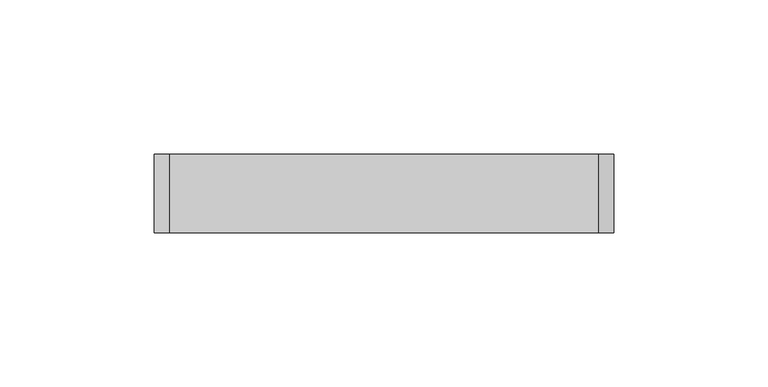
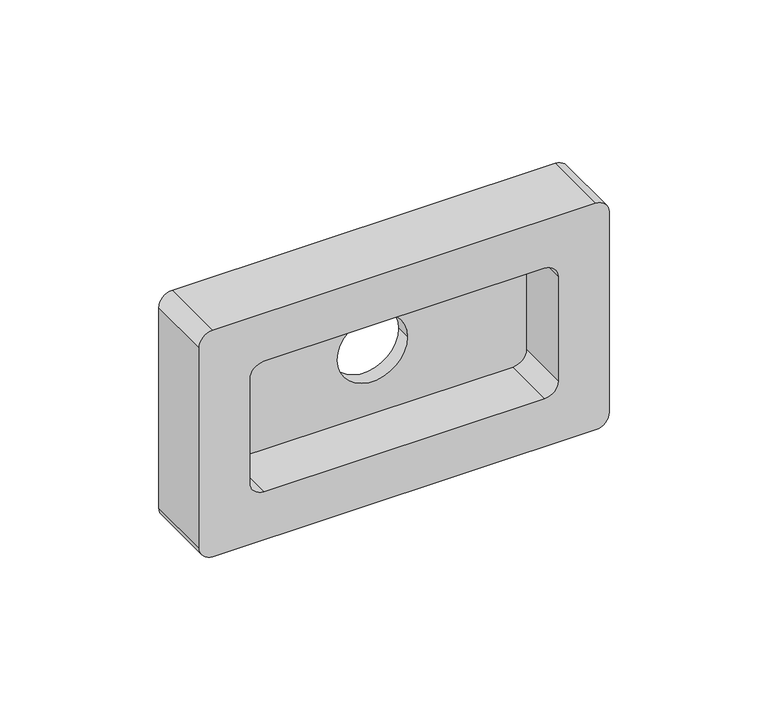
"""IFC4 building model written with IfcOpenShell, lengths in millimetres: proxy geometry, КНС_КоробкаМонтажнаяПод4МодуляЭлектроустановочныхИзделийPDD-N120_ILF_DKC : Белая."""

from ifc_helpers import new_model, si_unit, frame, origin, place, context, project, spatial, polyline, circle_curve, source, transform, mapped, element, save
from ifc_brep_helpers import plane_surface, cylinder_surface, revolved_surface, advanced_brep


def electrical_fixtures_2044470d(model_context):
    return source(origin(), model_context, "Body", "AdvancedBrep", [
        advanced_brep(
        [(69.5, 0.0, 43.5), (-69.5, 0.0, 43.5), (-74.5, 0.0, 38.5), (-74.5, 0.0, -38.5), (-69.5, 0.0, -43.5), (69.5, 0.0, -43.5), (74.5, 0.0, -38.5), (74.5, 0.0, 38.5), (-51.0, 0.0, 25.0), (51.0, 0.0, 25.0), (56.0, 0.0, 20.0), (56.0, 0.0, -20.0), (51.0, 0.0, -25.0), (-51.0, 0.0, -25.0), (-56.0, 0.0, -20.0), (-56.0, 0.0, 20.0), (69.5, 25.4, 43.5), (74.5, 25.4, 38.5), (74.5, 25.4, -38.5), (69.5, 25.4, -43.5), (-69.5, 25.4, -43.5), (-74.5, 25.4, -38.5), (-74.5, 25.4, 38.5), (-69.5, 25.4, 43.5), (-12.7, 25.4, 0.0), (12.7, 25.4, 0.0), (51.0, 20.0, 25.0), (-51.0, 20.0, 25.0), (-56.0, 20.0, 20.0), (-56.0, 20.0, -20.0), (-51.0, 20.0, -25.0), (51.0, 20.0, -25.0), (56.0, 20.0, -20.0), (56.0, 20.0, 20.0), (12.7, 20.0, 0.0), (-12.7, 20.0, 0.0)],
        [
            (0, 1),
            (1, 2, circle_curve(frame((-69.5, 0.0, 38.5), z_axis=(0.0, -1.0, 0.0), x_axis=(1.0, 0.0, 0.0)), 5.0)),
            (2, 3),
            (3, 4, circle_curve(frame((-69.5, 0.0, -38.5), z_axis=(0.0, -1.0, 0.0), x_axis=(1.0, 0.0, 0.0)), 5.0)),
            (4, 5),
            (5, 6, circle_curve(frame((69.5, 0.0, -38.5), z_axis=(0.0, -1.0, 0.0), x_axis=(1.0, 0.0, 0.0)), 5.0)),
            (6, 7),
            (7, 0, circle_curve(frame((69.5, 0.0, 38.5), z_axis=(0.0, -1.0, 0.0), x_axis=(1.0, 0.0, 0.0)), 5.0)),
            (8, 9),
            (9, 10, circle_curve(frame((51.0, 0.0, 20.0), z_axis=(0.0, 1.0, 0.0), x_axis=(1.0, 0.0, 0.0)), 5.0)),
            (10, 11),
            (11, 12, circle_curve(frame((51.0, 0.0, -20.0), z_axis=(0.0, 1.0, 0.0), x_axis=(1.0, 0.0, 0.0)), 5.0)),
            (12, 13),
            (13, 14, circle_curve(frame((-51.0, 0.0, -20.0), z_axis=(0.0, 1.0, 0.0), x_axis=(1.0, 0.0, 0.0)), 5.0)),
            (14, 15),
            (15, 8, circle_curve(frame((-51.0, 0.0, 20.0), z_axis=(0.0, 1.0, 0.0), x_axis=(1.0, 0.0, 0.0)), 5.0)),
            (16, 17, circle_curve(frame((69.5, 25.4, 38.5), z_axis=(0.0, 1.0, 0.0), x_axis=(1.0, 0.0, 0.0)), 5.0)),
            (17, 18),
            (18, 19, circle_curve(frame((69.5, 25.4, -38.5), z_axis=(0.0, 1.0, 0.0), x_axis=(1.0, 0.0, 0.0)), 5.0)),
            (19, 20),
            (20, 21, circle_curve(frame((-69.5, 25.4, -38.5), z_axis=(0.0, 1.0, 0.0), x_axis=(1.0, 0.0, 0.0)), 5.0)),
            (21, 22),
            (22, 23, circle_curve(frame((-69.5, 25.4, 38.5), z_axis=(0.0, 1.0, 0.0), x_axis=(1.0, 0.0, 0.0)), 5.0)),
            (23, 16),
            (24, 25, circle_curve(frame((0.0, 25.4, 0.0), z_axis=(0.0, -1.0, 0.0), x_axis=(1.0, 0.0, 0.0)), 12.7)),
            (25, 24, circle_curve(frame((0.0, 25.4, 0.0), z_axis=(0.0, -1.0, 0.0), x_axis=(1.0, 0.0, 0.0)), 12.7)),
            (0, 16),
            (23, 1),
            (22, 2),
            (21, 3),
            (20, 4),
            (19, 5),
            (18, 6),
            (17, 7),
            (26, 27),
            (27, 28, circle_curve(frame((-51.0, 20.0, 20.0), z_axis=(0.0, -1.0, 0.0), x_axis=(1.0, 0.0, 0.0)), 5.0)),
            (28, 29),
            (29, 30, circle_curve(frame((-51.0, 20.0, -20.0), z_axis=(0.0, -1.0, 0.0), x_axis=(1.0, 0.0, 0.0)), 5.0)),
            (30, 31),
            (31, 32, circle_curve(frame((51.0, 20.0, -20.0), z_axis=(0.0, -1.0, 0.0), x_axis=(1.0, 0.0, 0.0)), 5.0)),
            (32, 33),
            (33, 26, circle_curve(frame((51.0, 20.0, 20.0), z_axis=(0.0, -1.0, 0.0), x_axis=(1.0, 0.0, 0.0)), 5.0)),
            (34, 35, circle_curve(frame((0.0, 20.0, 0.0), z_axis=(0.0, 1.0, 0.0), x_axis=(1.0, 0.0, 0.0)), 12.7)),
            (35, 34, circle_curve(frame((0.0, 20.0, 0.0), z_axis=(0.0, 1.0, 0.0), x_axis=(1.0, 0.0, 0.0)), 12.7)),
            (26, 9),
            (8, 27),
            (15, 28),
            (14, 29),
            (13, 30),
            (12, 31),
            (11, 32),
            (10, 33),
            (34, 25),
            (24, 35),
        ],
        [
            plane_surface(frame((-69.5, 0.0, 43.5), z_axis=(0.0, -1.0, 0.0), x_axis=(-1.0, 0.0, 0.0))),
            plane_surface(frame((-69.5, 25.4, 43.5), z_axis=(0.0, 1.0, 0.0), x_axis=(1.0, 0.0, 0.0))),
            plane_surface(frame((69.5, 0.0, 43.5), z_axis=(0.0, 0.0, 1.0), x_axis=(0.0, 1.0, 0.0))),
            cylinder_surface(frame((-69.5, 25.4, 38.5), z_axis=(0.0, -1.0, 0.0), x_axis=(1.0, 0.0, 0.0)), 5.0),
            plane_surface(frame((-74.5, 0.0, 38.5), z_axis=(-1.0, 0.0, 0.0), x_axis=(0.0, 1.0, 0.0))),
            cylinder_surface(frame((-69.5, 25.4, -38.5), z_axis=(0.0, -1.0, 0.0), x_axis=(1.0, 0.0, 0.0)), 5.0),
            plane_surface(frame((-69.5, 0.0, -43.5), z_axis=(0.0, 0.0, -1.0), x_axis=(0.0, 1.0, 0.0))),
            cylinder_surface(frame((69.5, 25.4, -38.5), z_axis=(0.0, -1.0, 0.0), x_axis=(1.0, 0.0, 0.0)), 5.0),
            plane_surface(frame((74.5, 0.0, -38.5), z_axis=(1.0, 0.0, 0.0), x_axis=(0.0, 1.0, 0.0))),
            cylinder_surface(frame((69.5, 25.4, 38.5), z_axis=(0.0, -1.0, 0.0), x_axis=(1.0, 0.0, 0.0)), 5.0),
            plane_surface(frame((-51.0, 20.0, 25.0), z_axis=(0.0, -1.0, 0.0), x_axis=(1.0, 0.0, 0.0))),
            plane_surface(frame((51.0, 0.0, 25.0), z_axis=(0.0, 0.0, -1.0), x_axis=(0.0, 1.0, 0.0))),
            revolved_surface(polyline([(-46.0, 0.0, 20.0), (-46.0, 20.0, 20.0)]), (-51.0, 20.0, 20.0), (0.0, -1.0, 0.0)),
            plane_surface(frame((-56.0, 0.0, 20.0), z_axis=(1.0, 0.0, 0.0), x_axis=(0.0, 1.0, 0.0))),
            revolved_surface(polyline([(-46.0, 0.0, -20.0), (-46.0, 20.0, -20.0)]), (-51.0, 20.0, -20.0), (0.0, -1.0, 0.0)),
            plane_surface(frame((-51.0, 0.0, -25.0), z_axis=(0.0, 0.0, 1.0), x_axis=(0.0, 1.0, 0.0))),
            revolved_surface(polyline([(56.0, 0.0, -20.0), (56.0, 20.0, -20.0)]), (51.0, 20.0, -20.0), (0.0, -1.0, 0.0)),
            plane_surface(frame((56.0, 0.0, -20.0), z_axis=(-1.0, 0.0, 0.0), x_axis=(0.0, 1.0, 0.0))),
            revolved_surface(polyline([(56.0, 0.0, 20.0), (56.0, 20.0, 20.0)]), (51.0, 20.0, 20.0), (0.0, -1.0, 0.0)),
            revolved_surface(polyline([(12.7, 20.0, 0.0), (12.7, 25.4, 0.0)]), (0.0, 25.4, 0.0), (0.0, -1.0, 0.0)),
        ],
        [
            (0, [[1, 2, 3, 4, 5, 6, 7, 8], [9, 10, 11, 12, 13, 14, 15, 16]]),
            (1, [[17, 18, 19, 20, 21, 22, 23, 24], [25, 26]]),
            (2, [[-1, 27, -24, 28]]),
            (3, [[-2, -28, -23, 29]]),
            (4, [[-3, -29, -22, 30]]),
            (5, [[-4, -30, -21, 31]]),
            (6, [[-5, -31, -20, 32]]),
            (7, [[-6, -32, -19, 33]]),
            (8, [[-7, -33, -18, 34]]),
            (9, [[-8, -34, -17, -27]]),
            (10, [[35, 36, 37, 38, 39, 40, 41, 42], [43, 44]]),
            (11, [[-35, 45, -9, 46]]),
            (12, [[-36, -46, -16, 47]]),
            (13, [[-37, -47, -15, 48]]),
            (14, [[-38, -48, -14, 49]]),
            (15, [[-39, -49, -13, 50]]),
            (16, [[-40, -50, -12, 51]]),
            (17, [[-41, -51, -11, 52]]),
            (18, [[-42, -52, -10, -45]]),
            (19, [[53, -25, 54, -43]]),
            (19, [[-53, -44, -54, -26]]),
        ],
    ),
    ])


if __name__ == "__main__":
    model = new_model("IFC4")
    model_context = context("Model", 3, world=origin())
    ifc_project = project(units=[si_unit("LENGTHUNIT", "METRE", prefix="MILLI")], contexts=[model_context])
    site = spatial("IfcSite", under=ifc_project)
    building = spatial("IfcBuilding", under=site)
    placement = place(None, origin())
    electrical_fixtures_shape = electrical_fixtures_2044470d(model_context)
    element("IfcBuildingElementProxy", 1, Name="КНС_КоробкаМонтажнаяПод4МодуляЭлектроустановочныхИзделийPDD-N120_ILF_DKC : Белая", ObjectType="КНС_КоробкаМонтажнаяПод4МодуляЭлектроустановочныхИзделийPDD-N120_ILF_DKC : Белая", at=placement, inside=building, context=model_context, shape_type="MappedRepresentation", body=[
        mapped(electrical_fixtures_shape, transform((0.0, 0.0, 0.0), x_axis=(1.0, 0.0, 0.0), y_axis=(0.0, 1.0, 0.0), z_axis=(0.0, 0.0, 1.0))),
    ])
    save(model, "model.ifc")
